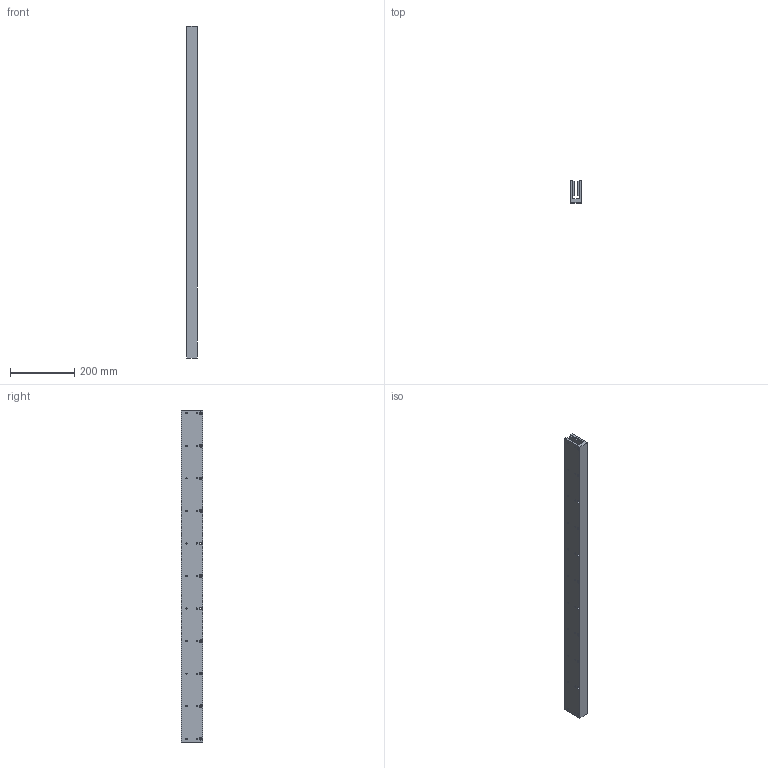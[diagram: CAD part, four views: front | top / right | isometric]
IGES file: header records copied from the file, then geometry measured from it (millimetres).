
Global section: file name: No Iges File Name specified; native system: Autodesk Inventor 2009; preprocessor: AutoDesk Inventor Iges Exporter R2009; author: je17857; date: 20091116.111558; units: inch
Bounding box: 34.29 x 67.31 x 1036.32 mm (x, y, z)
Volume: 1548265.5 mm3; surface area: 390935.5 mm2
Topology: 1 solids, 1 shells, 542 faces, 1302 edges, 868 vertices
Faces by surface type: plane 366, bspline 176
